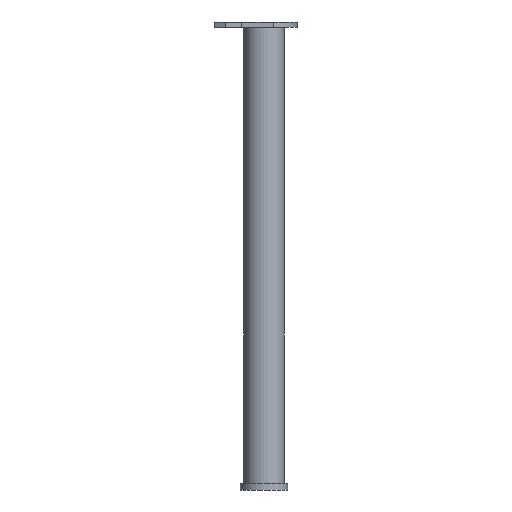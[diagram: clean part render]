
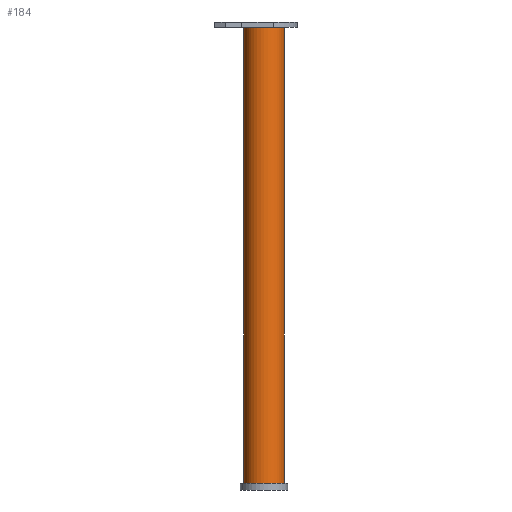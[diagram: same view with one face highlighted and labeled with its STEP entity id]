
A CAD part, left-side view. The second image highlights one B-rep face of the part: STEP entity #184.
In plain terms, the highlighted cylindrical face has radius 30 mm (diameter 60 mm), a full revolution.
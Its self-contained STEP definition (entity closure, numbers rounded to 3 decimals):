
#184 = ADVANCED_FACE( '', ( #376, #377 ), #378, .T. );
#376 = FACE_OUTER_BOUND( '', #552, .T. );
#377 = FACE_OUTER_BOUND( '', #553, .T. );
#378 = CYLINDRICAL_SURFACE( '', #554, 30. );
#552 = EDGE_LOOP( '', ( #896 ) );
#553 = EDGE_LOOP( '', ( #897 ) );
#554 = AXIS2_PLACEMENT_3D( '', #898, #899, #900 );
#896 = ORIENTED_EDGE( '', *, *, #1057, .F. );
#897 = ORIENTED_EDGE( '', *, *, #1081, .F. );
#898 = CARTESIAN_POINT( '', ( 0., 0., -700. ) );
#899 = DIRECTION( '', ( 0., 0., -1. ) );
#900 = DIRECTION( '', ( 1., 0., 0. ) );
#1057 = EDGE_CURVE( '', #1266, #1266, #1267, .F. );
#1081 = EDGE_CURVE( '', #1300, #1300, #1301, .T. );
#1266 = VERTEX_POINT( '', #1538 );
#1267 = CIRCLE( '', #1539, 30. );
#1300 = VERTEX_POINT( '', #1580 );
#1301 = CIRCLE( '', #1581, 30. );
#1538 = CARTESIAN_POINT( '', ( 30., 0., -690. ) );
#1539 = AXIS2_PLACEMENT_3D( '', #1746, #1747, #1748 );
#1580 = CARTESIAN_POINT( '', ( 30., 0., -8. ) );
#1581 = AXIS2_PLACEMENT_3D( '', #1775, #1776, #1777 );
#1746 = CARTESIAN_POINT( '', ( 0., 0., -690. ) );
#1747 = DIRECTION( '', ( 0., 0., 1. ) );
#1748 = DIRECTION( '', ( 1., 0., 0. ) );
#1775 = CARTESIAN_POINT( '', ( 0., 0., -8. ) );
#1776 = DIRECTION( '', ( 0., 0., 1. ) );
#1777 = DIRECTION( '', ( 1., 0., 0. ) );
